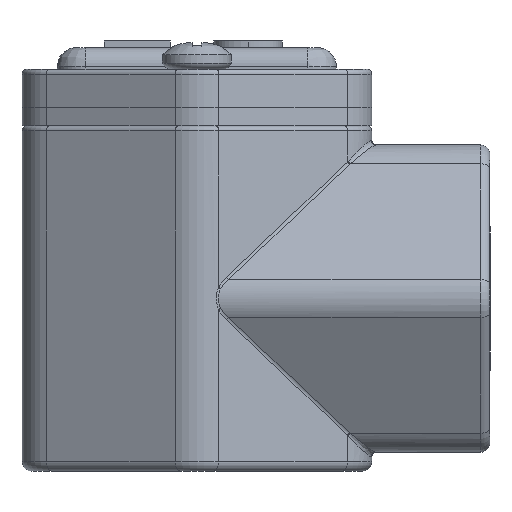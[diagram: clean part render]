
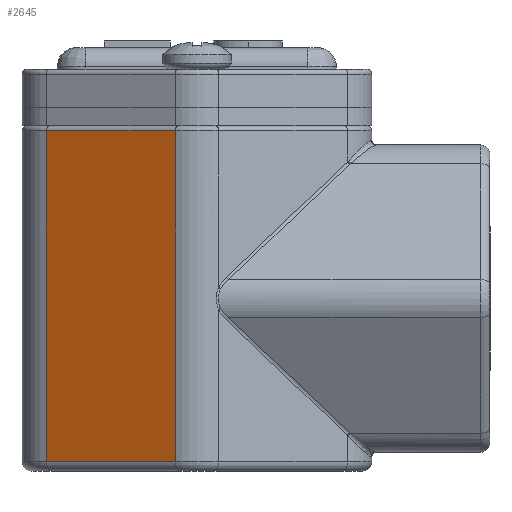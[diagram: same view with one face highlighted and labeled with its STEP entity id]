
A CAD part, left-side view. The second image highlights one B-rep face of the part: STEP entity #2645.
In plain terms, the highlighted planar face has unit normal (-0.876, 0.482, 0).
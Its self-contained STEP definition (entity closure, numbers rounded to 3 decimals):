
#2028=CARTESIAN_POINT('',(-49.912,2.288,36.));
#2029=VERTEX_POINT('',#2028);
#2037=CARTESIAN_POINT('',(-49.912,2.288,1.));
#2038=VERTEX_POINT('',#2037);
#2039=CARTESIAN_POINT('',(-49.912,2.288,36.0));
#2040=DIRECTION('',(0.0,0.0,-1.0));
#2041=VECTOR('',#2040,35.0);
#2042=LINE('',#2039,#2041);
#2043=EDGE_CURVE('',#2029,#2038,#2042,.T.);
#2615=CARTESIAN_POINT('',(-41.,18.5,36.5));
#2616=DIRECTION('',(-0.876,0.482,0.0));
#2617=DIRECTION('',(0.0,0.0,1.0));
#2618=AXIS2_PLACEMENT_3D('',#2615,#2616,#2617);
#2619=PLANE('',#2618);
#2620=CARTESIAN_POINT('',(-42.425,15.909,1.));
#2621=VERTEX_POINT('',#2620);
#2622=CARTESIAN_POINT('',(-42.425,15.909,36.));
#2623=VERTEX_POINT('',#2622);
#2624=CARTESIAN_POINT('',(-42.425,15.909,1.0));
#2625=DIRECTION('',(0.0,0.0,1.0));
#2626=VECTOR('',#2625,35.0);
#2627=LINE('',#2624,#2626);
#2628=EDGE_CURVE('',#2621,#2623,#2627,.T.);
#2629=ORIENTED_EDGE('',*,*,#2628,.F.);
#2630=CARTESIAN_POINT('',(-49.912,2.288,1.));
#2631=DIRECTION('',(0.482,0.876,0.0));
#2632=VECTOR('',#2631,15.543);
#2633=LINE('',#2630,#2632);
#2634=EDGE_CURVE('',#2038,#2621,#2633,.T.);
#2635=ORIENTED_EDGE('',*,*,#2634,.F.);
#2636=ORIENTED_EDGE('',*,*,#2043,.F.);
#2637=CARTESIAN_POINT('',(-42.425,15.909,36.));
#2638=DIRECTION('',(-0.482,-0.876,0.0));
#2639=VECTOR('',#2638,15.543);
#2640=LINE('',#2637,#2639);
#2641=EDGE_CURVE('',#2623,#2029,#2640,.T.);
#2642=ORIENTED_EDGE('',*,*,#2641,.F.);
#2643=EDGE_LOOP('',(#2629,#2635,#2636,#2642));
#2644=FACE_OUTER_BOUND('',#2643,.T.);
#2645=ADVANCED_FACE('',(#2644),#2619,.T.);
